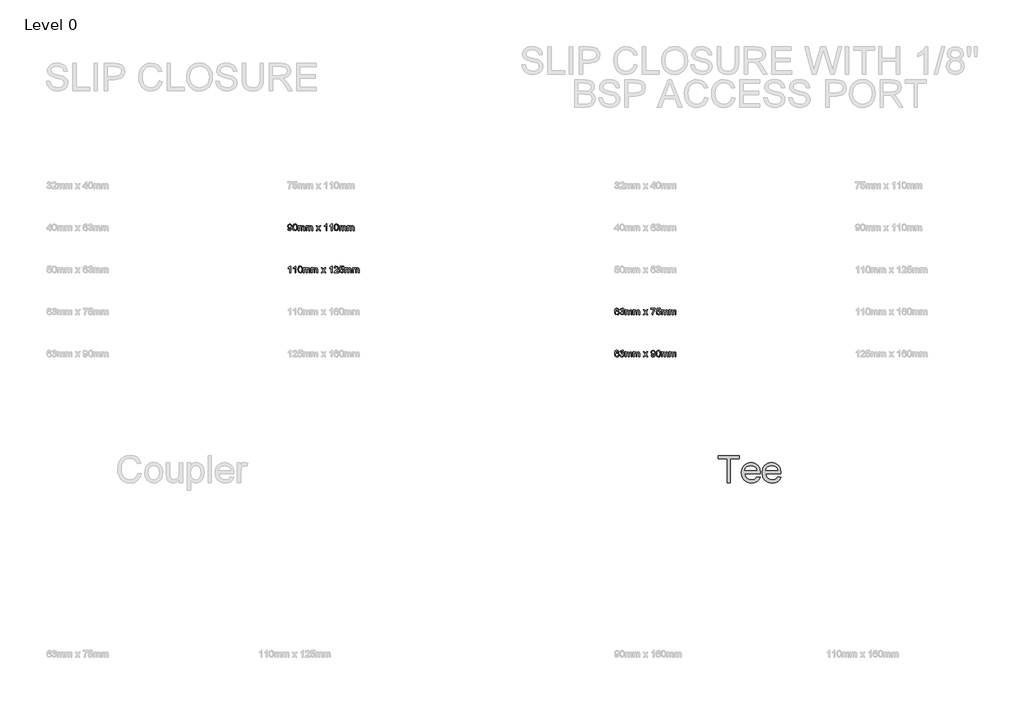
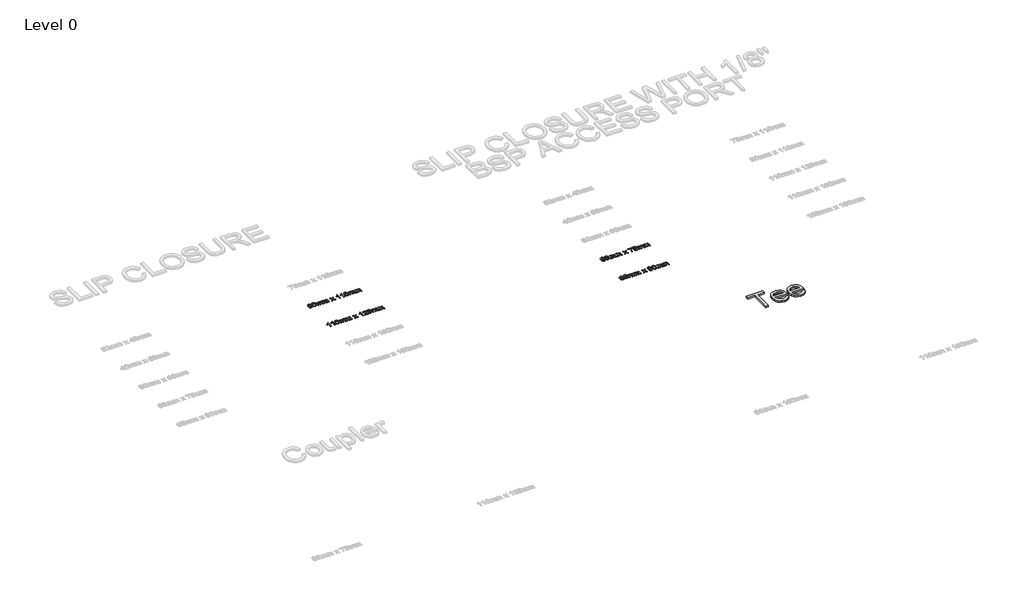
# One storey, part 12 of 21: 5 proxies.
"""IFC4 building model written with IfcOpenShell, lengths in millimetres."""

from ifc_helpers import new_model, si_unit, origin, origin_with_axes, place, context, project, spatial, polyline, outline, extrude, element, save

model = new_model("IFC4")

# Units and contexts
model_context = context("Model", 3, world=origin())
ifc_project = project(units=[si_unit("LENGTHUNIT", "METRE", prefix="MILLI")], contexts=[model_context])

# Site, building, storey
site = spatial("IfcSite", under=ifc_project)
building = spatial("IfcBuilding", under=site)
storey = spatial("IfcBuildingStorey", under=building, Name="Level 0", Elevation=0.0)

# Proxies
placement = place(None, origin())
element("IfcBuildingElementProxy", 1, Name="200mm Arial", ObjectType="200mm Arial", at=placement, inside=storey, context=model_context, shape_type="SweptSolid", body=[
    extrude(outline(polyline([(-2407.7485922, -7353.2112631), (-2407.7485922, -7177.4127203), (-2473.6730457, -7177.4127203), (-2473.6730457, -7152.2986428), (-2316.7100611, -7152.2986428), (-2316.7100611, -7177.4127203), (-2382.6345147, -7177.4127203), (-2382.6345147, -7353.2112631), (-2407.7485922, -7353.2112631)])), origin_with_axes(), (0.0, 0.0, 1.0), 15.0),
    extrude(outline(polyline([(-2188.2947194, -7309.2616274), (-2163.6711511, -7312.4008871), (-2172.5432386, -7330.9544024), (-2186.700564, -7344.8235536), (-2205.8242964, -7353.4687805), (-2229.5956047, -7356.3505228), (-2259.0629525, -7351.3779845), (-2281.7367461, -7336.4603696), (-2296.1945085, -7312.566434), (-2301.0137627, -7280.6649336), (-2296.1454576, -7247.6904441), (-2281.5405424, -7223.0300877), (-2259.1733171, -7207.6526203), (-2231.0180817, -7202.5267979), (-2203.7396318, -7207.6403576), (-2181.9426236, -7222.9810368), (-2167.6504081, -7247.5923423), (-2162.8863362, -7280.5177808), (-2163.033489, -7287.2868096), (-2275.8996851, -7287.2868096), (-2271.5525462, -7306.0855795), (-2261.4541855, -7319.9056798), (-2246.8799271, -7328.4037539), (-2229.1050954, -7331.2364452), (-2204.4815271, -7325.9879954), (-2195.3335282, -7319.1821785), (-2188.2947194, -7309.2616274)]), holes=[polyline([(-2275.8996851, -7262.172732), (-2188.0004138, -7262.172732), (-2191.3971908, -7248.9044547), (-2198.055855, -7239.4130992), (-2212.6975584, -7230.5839314), (-2231.1161836, -7227.6408754), (-2248.0448867, -7229.9891888), (-2262.0427967, -7237.034129), (-2271.7732754, -7248.0154066), (-2275.8996851, -7262.172732)])]), origin_with_axes(), (0.0, 0.0, 1.0), 15.0),
    extrude(outline(polyline([(-2034.4709944, -7309.2616274), (-2009.8474262, -7312.4008871), (-2018.7195137, -7330.9544024), (-2032.8768391, -7344.8235536), (-2052.0005715, -7353.4687805), (-2075.7718798, -7356.3505228), (-2105.2392276, -7351.3779845), (-2127.9130212, -7336.4603696), (-2142.3707836, -7312.566434), (-2147.1900378, -7280.6649336), (-2142.3217327, -7247.6904441), (-2127.7168175, -7223.0300877), (-2105.3495922, -7207.6526203), (-2077.1943568, -7202.5267979), (-2049.9159069, -7207.6403576), (-2028.1188987, -7222.9810368), (-2013.8266831, -7247.5923423), (-2009.0626113, -7280.5177808), (-2009.2097641, -7287.2868096), (-2122.0759602, -7287.2868096), (-2117.7288213, -7306.0855795), (-2107.6304605, -7319.9056798), (-2093.0562022, -7328.4037539), (-2075.2813704, -7331.2364452), (-2050.6578022, -7325.9879954), (-2041.5098033, -7319.1821785), (-2034.4709944, -7309.2616274)]), holes=[polyline([(-2122.0759602, -7262.172732), (-2034.1766888, -7262.172732), (-2037.5734659, -7248.9044547), (-2044.23213, -7239.4130992), (-2058.8738335, -7230.5839314), (-2077.2924587, -7227.6408754), (-2094.2211618, -7229.9891888), (-2108.2190717, -7237.034129), (-2117.9495505, -7248.0154066), (-2122.0759602, -7262.172732)])]), origin_with_axes(), (0.0, 0.0, 1.0), 15.0),
])
element("IfcBuildingElementProxy", 2, Name="50mm", ObjectType="50mm", at=placement, inside=storey, context=model_context, shape_type="SweptSolid", body=[
    extrude(outline(polyline([(-5657.4437539, -5476.9042243), (-5651.1652345, -5476.1194094), (-5648.3448059, -5482.1097546), (-5642.9982542, -5483.9675586), (-5637.9153513, -5482.7719421), (-5634.4695233, -5479.5775002), (-5632.4155155, -5474.1205839), (-5631.5080732, -5466.8365204), (-5636.5664507, -5470.3681875), (-5643.4519754, -5472.1953348), (-5653.9427436, -5467.7316999), (-5658.2285688, -5455.9717388), (-5653.7342771, -5443.831633), (-5642.4709567, -5439.233108), (-5633.5252929, -5441.8573329), (-5627.3694008, -5449.3376001), (-5625.2663421, -5463.3906924), (-5627.3632694, -5478.6394011), (-5633.5988693, -5487.2784966), (-5643.2925598, -5490.246078), (-5652.9433308, -5486.7450677), (-5657.4437539, -5476.9042243)]), holes=[polyline([(-5631.5448614, -5455.824586), (-5634.2549255, -5448.2952678), (-5641.4531499, -5445.5116274), (-5649.0069935, -5448.5098657), (-5651.9500494, -5456.2783071), (-5649.166409, -5463.2374082), (-5641.6248281, -5465.9168154), (-5634.3836842, -5463.2374082), (-5631.5448614, -5455.824586)])]), origin_with_axes(), (0.0, 0.0, 1.0), 5.0),
    extrude(outline(polyline([(-5619.7726376, -5464.7518557), (-5617.9270963, -5450.3002247), (-5612.4456545, -5441.9676975), (-5603.2915242, -5439.233108), (-5595.9584098, -5440.8517888), (-5590.893901, -5445.5177588), (-5587.950845, -5452.9489751), (-5586.8104108, -5464.7518557), (-5588.6375581, -5479.1421731), (-5594.1006057, -5487.4930944), (-5603.2915242, -5490.246078), (-5614.7694425, -5485.4636121), (-5618.5218388, -5476.9686037), (-5619.7726376, -5464.7518557)]), holes=[polyline([(-5613.4941182, -5464.739593), (-5610.5510623, -5480.3316582), (-5603.2915242, -5483.9675586), (-5596.0319862, -5480.3193955), (-5593.0889302, -5464.739593), (-5595.9338843, -5449.3253374), (-5603.3651006, -5445.5116274), (-5610.4529604, -5448.8716163), (-5613.4941182, -5464.739593)])]), origin_with_axes(), (0.0, 0.0, 1.0), 5.0),
    extrude(outline(polyline([(-5579.7470765, -5489.4612631), (-5579.7470765, -5452.5749617), (-5573.4685571, -5452.5749617), (-5573.4685571, -5458.6450146), (-5569.1520751, -5453.6724763), (-5563.0084457, -5451.7901468), (-5556.7176636, -5453.7092645), (-5553.2595729, -5459.086473), (-5548.360611, -5453.6142283), (-5542.1740621, -5451.7901468), (-5533.9641622, -5454.8251732), (-5531.0885513, -5464.1755073), (-5531.0885513, -5489.4612631), (-5537.3670707, -5489.4612631), (-5537.3670707, -5466.8733086), (-5537.9495505, -5461.6309902), (-5540.0587406, -5459.0496848), (-5543.6455901, -5458.0686662), (-5549.8198762, -5460.5825265), (-5552.2785542, -5468.6391422), (-5552.2785542, -5489.4612631), (-5558.5570736, -5489.4612631), (-5558.5570736, -5466.1743328), (-5560.0102075, -5460.0920171), (-5564.7742793, -5458.0686662), (-5569.4218552, -5459.4175668), (-5572.512064, -5463.3661669), (-5573.4685571, -5470.8586969), (-5573.4685571, -5489.4612631), (-5579.7470765, -5489.4612631)])), origin_with_axes(), (0.0, 0.0, 1.0), 5.0),
    extrude(outline(polyline([(-5521.6707722, -5489.4612631), (-5521.6707722, -5452.5749617), (-5515.3922528, -5452.5749617), (-5515.3922528, -5458.6450146), (-5511.0757708, -5453.6724763), (-5504.9321414, -5451.7901468), (-5498.6413593, -5453.7092645), (-5495.1832686, -5459.086473), (-5490.2843067, -5453.6142283), (-5484.0977578, -5451.7901468), (-5475.8878579, -5454.8251732), (-5473.012247, -5464.1755073), (-5473.012247, -5489.4612631), (-5479.2907664, -5489.4612631), (-5479.2907664, -5466.8733086), (-5479.8732462, -5461.6309902), (-5481.9824363, -5459.0496848), (-5485.5692858, -5458.0686662), (-5491.7435719, -5460.5825265), (-5494.2022499, -5468.6391422), (-5494.2022499, -5489.4612631), (-5500.4807693, -5489.4612631), (-5500.4807693, -5466.1743328), (-5501.9339032, -5460.0920171), (-5506.697975, -5458.0686662), (-5511.3455509, -5459.4175668), (-5514.4357597, -5463.3661669), (-5515.3922528, -5470.8586969), (-5515.3922528, -5489.4612631), (-5521.6707722, -5489.4612631)])), origin_with_axes(), (0.0, 0.0, 1.0), 5.0),
    extrude(outline(polyline([(-5447.8981695, -5489.4612631), (-5434.4827394, -5470.9200105), (-5447.1133545, -5452.5749617), (-5439.5595109, -5452.5749617), (-5433.4649325, -5461.4041296), (-5430.6199784, -5465.5734589), (-5428.155169, -5462.164419), (-5421.2144621, -5452.5749617), (-5413.6606184, -5452.5749617), (-5426.9288957, -5470.9200105), (-5414.1511278, -5489.4612631), (-5421.7049714, -5489.4612631), (-5429.3937051, -5478.3144386), (-5430.8039194, -5476.2788249), (-5440.3443258, -5489.4612631), (-5447.8981695, -5489.4612631)])), origin_with_axes(), (0.0, 0.0, 1.0), 5.0),
    extrude(outline(polyline([(-5367.0622324, -5489.4612631), (-5373.3407518, -5489.4612631), (-5373.3407518, -5450.3186188), (-5379.2881774, -5454.5553931), (-5385.8977905, -5457.7253096), (-5385.8977905, -5451.7901468), (-5376.6946093, -5445.9162976), (-5371.1089343, -5439.233108), (-5367.0622324, -5439.233108), (-5367.0622324, -5489.4612631)])), origin_with_axes(), (0.0, 0.0, 1.0), 5.0),
    extrude(outline(polyline([(-5328.6063012, -5489.4612631), (-5334.8848205, -5489.4612631), (-5334.8848205, -5450.3186188), (-5340.8322461, -5454.5553931), (-5347.4418593, -5457.7253096), (-5347.4418593, -5451.7901468), (-5338.2386781, -5445.9162976), (-5332.6530031, -5439.233108), (-5328.6063012, -5439.233108), (-5328.6063012, -5489.4612631)])), origin_with_axes(), (0.0, 0.0, 1.0), 5.0),
    extrude(outline(polyline([(-5313.6948176, -5464.7518557), (-5311.8492763, -5450.3002247), (-5306.3678345, -5441.9676975), (-5297.2137042, -5439.233108), (-5289.8805898, -5440.8517888), (-5284.816081, -5445.5177588), (-5281.873025, -5452.9489751), (-5280.7325908, -5464.7518557), (-5282.5597381, -5479.1421731), (-5288.0227857, -5487.4930944), (-5297.2137042, -5490.246078), (-5308.6916225, -5485.4636121), (-5312.4440188, -5476.9686037), (-5313.6948176, -5464.7518557)]), holes=[polyline([(-5307.4162982, -5464.739593), (-5304.4732423, -5480.3316582), (-5297.2137042, -5483.9675586), (-5289.9541662, -5480.3193955), (-5287.0111102, -5464.739593), (-5289.8560643, -5449.3253374), (-5297.2872806, -5445.5116274), (-5304.3751404, -5448.8716163), (-5307.4162982, -5464.739593)])]), origin_with_axes(), (0.0, 0.0, 1.0), 5.0),
    extrude(outline(polyline([(-5273.6692565, -5489.4612631), (-5273.6692565, -5452.5749617), (-5267.3907372, -5452.5749617), (-5267.3907372, -5458.6450146), (-5263.0742551, -5453.6724763), (-5256.9306258, -5451.7901468), (-5250.6398436, -5453.7092645), (-5247.1817529, -5459.086473), (-5242.282791, -5453.6142283), (-5236.0962421, -5451.7901468), (-5227.8863422, -5454.8251732), (-5225.0107313, -5464.1755073), (-5225.0107313, -5489.4612631), (-5231.2892507, -5489.4612631), (-5231.2892507, -5466.8733086), (-5231.8717305, -5461.6309902), (-5233.9809206, -5459.0496848), (-5237.5677701, -5458.0686662), (-5243.7420562, -5460.5825265), (-5246.2007342, -5468.6391422), (-5246.2007342, -5489.4612631), (-5252.4792536, -5489.4612631), (-5252.4792536, -5466.1743328), (-5253.9323875, -5460.0920171), (-5258.6964593, -5458.0686662), (-5263.3440352, -5459.4175668), (-5266.434244, -5463.3661669), (-5267.3907372, -5470.8586969), (-5267.3907372, -5489.4612631), (-5273.6692565, -5489.4612631)])), origin_with_axes(), (0.0, 0.0, 1.0), 5.0),
    extrude(outline(polyline([(-5215.5929522, -5489.4612631), (-5215.5929522, -5452.5749617), (-5209.3144329, -5452.5749617), (-5209.3144329, -5458.6450146), (-5204.9979508, -5453.6724763), (-5198.8543215, -5451.7901468), (-5192.5635393, -5453.7092645), (-5189.1054486, -5459.086473), (-5184.2064867, -5453.6142283), (-5178.0199378, -5451.7901468), (-5169.8100379, -5454.8251732), (-5166.934427, -5464.1755073), (-5166.934427, -5489.4612631), (-5173.2129464, -5489.4612631), (-5173.2129464, -5466.8733086), (-5173.7954262, -5461.6309902), (-5175.9046163, -5459.0496848), (-5179.4914658, -5458.0686662), (-5185.6657519, -5460.5825265), (-5188.1244299, -5468.6391422), (-5188.1244299, -5489.4612631), (-5194.4029493, -5489.4612631), (-5194.4029493, -5466.1743328), (-5195.8560832, -5460.0920171), (-5200.620155, -5458.0686662), (-5205.2677309, -5459.4175668), (-5208.3579397, -5463.3661669), (-5209.3144329, -5470.8586969), (-5209.3144329, -5489.4612631), (-5215.5929522, -5489.4612631)])), origin_with_axes(), (0.0, 0.0, 1.0), 5.0),
])
element("IfcBuildingElementProxy", 3, Name="50mm", ObjectType="50mm", at=placement, inside=storey, context=model_context, shape_type="SweptSolid", body=[
    extrude(outline(polyline([(-5634.6841211, -5800.7112631), (-5640.9626405, -5800.7112631), (-5640.9626405, -5761.5686188), (-5646.9100661, -5765.8053931), (-5653.5196793, -5768.9753096), (-5653.5196793, -5763.0401468), (-5644.316498, -5757.1662976), (-5638.7308231, -5750.483108), (-5634.6841211, -5750.483108), (-5634.6841211, -5800.7112631)])), origin_with_axes(), (0.0, 0.0, 1.0), 5.0),
    extrude(outline(polyline([(-5596.2281899, -5800.7112631), (-5602.5067093, -5800.7112631), (-5602.5067093, -5761.5686188), (-5608.4541349, -5765.8053931), (-5615.0637481, -5768.9753096), (-5615.0637481, -5763.0401468), (-5605.8605668, -5757.1662976), (-5600.2748919, -5750.483108), (-5596.2281899, -5750.483108), (-5596.2281899, -5800.7112631)])), origin_with_axes(), (0.0, 0.0, 1.0), 5.0),
    extrude(outline(polyline([(-5581.3167064, -5776.0018557), (-5579.471165, -5761.5502247), (-5573.9897233, -5753.2176975), (-5564.835593, -5750.483108), (-5557.5024786, -5752.1017888), (-5552.4379698, -5756.7677588), (-5549.4949138, -5764.1989751), (-5548.3544796, -5776.0018557), (-5550.1816268, -5790.3921731), (-5555.6446745, -5798.7430944), (-5564.835593, -5801.496078), (-5576.3135112, -5796.7136121), (-5580.0659076, -5788.2186037), (-5581.3167064, -5776.0018557)]), holes=[polyline([(-5575.038187, -5775.989593), (-5572.095131, -5791.5816582), (-5564.835593, -5795.2175586), (-5557.576055, -5791.5693955), (-5554.632999, -5775.989593), (-5557.4779531, -5760.5753374), (-5564.9091694, -5756.7616274), (-5571.9970292, -5760.1216163), (-5575.038187, -5775.989593)])]), origin_with_axes(), (0.0, 0.0, 1.0), 5.0),
    extrude(outline(polyline([(-5541.2911453, -5800.7112631), (-5541.2911453, -5763.8249617), (-5535.0126259, -5763.8249617), (-5535.0126259, -5769.8950146), (-5530.6961438, -5764.9224763), (-5524.5525145, -5763.0401468), (-5518.2617324, -5764.9592645), (-5514.8036416, -5770.336473), (-5509.9046797, -5764.8642283), (-5503.7181309, -5763.0401468), (-5495.508231, -5766.0751732), (-5492.6326201, -5775.4255073), (-5492.6326201, -5800.7112631), (-5498.9111395, -5800.7112631), (-5498.9111395, -5778.1233086), (-5499.4936193, -5772.8809902), (-5501.6028094, -5770.2996848), (-5505.1896588, -5769.3186662), (-5511.363945, -5771.8325265), (-5513.822623, -5779.8891422), (-5513.822623, -5800.7112631), (-5520.1011424, -5800.7112631), (-5520.1011424, -5777.4243328), (-5521.5542763, -5771.3420171), (-5526.3183481, -5769.3186662), (-5530.965924, -5770.6675668), (-5534.0561327, -5774.6161669), (-5535.0126259, -5782.1086969), (-5535.0126259, -5800.7112631), (-5541.2911453, -5800.7112631)])), origin_with_axes(), (0.0, 0.0, 1.0), 5.0),
    extrude(outline(polyline([(-5483.214841, -5800.7112631), (-5483.214841, -5763.8249617), (-5476.9363216, -5763.8249617), (-5476.9363216, -5769.8950146), (-5472.6198395, -5764.9224763), (-5466.4762102, -5763.0401468), (-5460.1854281, -5764.9592645), (-5456.7273373, -5770.336473), (-5451.8283754, -5764.8642283), (-5445.6418266, -5763.0401468), (-5437.4319267, -5766.0751732), (-5434.5563158, -5775.4255073), (-5434.5563158, -5800.7112631), (-5440.8348351, -5800.7112631), (-5440.8348351, -5778.1233086), (-5441.417315, -5772.8809902), (-5443.5265051, -5770.2996848), (-5447.1133545, -5769.3186662), (-5453.2876407, -5771.8325265), (-5455.7463187, -5779.8891422), (-5455.7463187, -5800.7112631), (-5462.0248381, -5800.7112631), (-5462.0248381, -5777.4243328), (-5463.477972, -5771.3420171), (-5468.2420438, -5769.3186662), (-5472.8896197, -5770.6675668), (-5475.9798284, -5774.6161669), (-5476.9363216, -5782.1086969), (-5476.9363216, -5800.7112631), (-5483.214841, -5800.7112631)])), origin_with_axes(), (0.0, 0.0, 1.0), 5.0),
    extrude(outline(polyline([(-5409.4422382, -5800.7112631), (-5396.0268081, -5782.1700105), (-5408.6574233, -5763.8249617), (-5401.1035797, -5763.8249617), (-5395.0090013, -5772.6541296), (-5392.1640472, -5776.8234589), (-5389.6992378, -5773.414419), (-5382.7585308, -5763.8249617), (-5375.2046872, -5763.8249617), (-5388.4729645, -5782.1700105), (-5375.6951965, -5800.7112631), (-5383.2490402, -5800.7112631), (-5390.9377739, -5789.5644386), (-5392.3479882, -5787.5288249), (-5401.8883946, -5800.7112631), (-5409.4422382, -5800.7112631)])), origin_with_axes(), (0.0, 0.0, 1.0), 5.0),
    extrude(outline(polyline([(-5328.6063012, -5800.7112631), (-5334.8848205, -5800.7112631), (-5334.8848205, -5761.5686188), (-5340.8322461, -5765.8053931), (-5347.4418593, -5768.9753096), (-5347.4418593, -5763.0401468), (-5338.2386781, -5757.1662976), (-5332.6530031, -5750.483108), (-5328.6063012, -5750.483108), (-5328.6063012, -5800.7112631)])), origin_with_axes(), (0.0, 0.0, 1.0), 5.0),
    extrude(outline(polyline([(-5281.5174058, -5794.4327437), (-5281.5174058, -5800.7112631), (-5314.4796325, -5800.7112631), (-5313.8051822, -5796.3825183), (-5309.9914722, -5789.7177228), (-5302.1310602, -5782.4397907), (-5291.2908041, -5771.9796793), (-5288.5807401, -5764.867294), (-5291.1375199, -5759.1099408), (-5297.8145782, -5756.7616274), (-5304.7736792, -5759.0547585), (-5307.4162982, -5765.3945916), (-5313.6948176, -5764.6097766), (-5308.8816948, -5754.1006143), (-5297.6796881, -5750.483108), (-5286.4408931, -5754.5052845), (-5282.3022207, -5764.4871493), (-5283.4181294, -5770.4407063), (-5287.1276062, -5776.5965983), (-5296.122321, -5785.1989056), (-5303.3450708, -5791.2383017), (-5306.1777622, -5794.4327437), (-5281.5174058, -5794.4327437)])), origin_with_axes(), (0.0, 0.0, 1.0), 5.0),
    extrude(outline(polyline([(-5275.2388864, -5787.3694094), (-5268.960367, -5786.5845945), (-5265.7965818, -5793.0531862), (-5259.2360196, -5795.2175586), (-5251.3633449, -5792.2070576), (-5248.555179, -5784.217887), (-5251.1855353, -5776.7621452), (-5259.1379177, -5774.0275557), (-5264.6500163, -5775.118939), (-5268.1755521, -5777.9516303), (-5274.4540715, -5777.1668154), (-5268.960367, -5751.2679229), (-5244.6311044, -5751.2679229), (-5244.6311044, -5757.5464423), (-5263.8835955, -5757.5464423), (-5266.569134, -5771.3788053), (-5257.3843469, -5767.7490363), (-5246.648324, -5772.2494594), (-5242.2766596, -5783.8254795), (-5246.212997, -5795.475076), (-5251.866117, -5799.9908275), (-5259.2605451, -5801.496078), (-5270.3399245, -5797.6271857), (-5275.2388864, -5787.3694094)])), origin_with_axes(), (0.0, 0.0, 1.0), 5.0),
    extrude(outline(polyline([(-5235.2133253, -5800.7112631), (-5235.2133253, -5763.8249617), (-5228.9348059, -5763.8249617), (-5228.9348059, -5769.8950146), (-5224.6183239, -5764.9224763), (-5218.4746945, -5763.0401468), (-5212.1839124, -5764.9592645), (-5208.7258217, -5770.336473), (-5203.8268598, -5764.8642283), (-5197.6403109, -5763.0401468), (-5189.430411, -5766.0751732), (-5186.5548001, -5775.4255073), (-5186.5548001, -5800.7112631), (-5192.8333195, -5800.7112631), (-5192.8333195, -5778.1233086), (-5193.4157993, -5772.8809902), (-5195.5249894, -5770.2996848), (-5199.1118389, -5769.3186662), (-5205.286125, -5771.8325265), (-5207.744803, -5779.8891422), (-5207.744803, -5800.7112631), (-5214.0233224, -5800.7112631), (-5214.0233224, -5777.4243328), (-5215.4764563, -5771.3420171), (-5220.2405281, -5769.3186662), (-5224.888104, -5770.6675668), (-5227.9783127, -5774.6161669), (-5228.9348059, -5782.1086969), (-5228.9348059, -5800.7112631), (-5235.2133253, -5800.7112631)])), origin_with_axes(), (0.0, 0.0, 1.0), 5.0),
    extrude(outline(polyline([(-5177.137021, -5800.7112631), (-5177.137021, -5763.8249617), (-5170.8585016, -5763.8249617), (-5170.8585016, -5769.8950146), (-5166.5420195, -5764.9224763), (-5160.3983902, -5763.0401468), (-5154.1076081, -5764.9592645), (-5150.6495174, -5770.336473), (-5145.7505555, -5764.8642283), (-5139.5640066, -5763.0401468), (-5131.3541067, -5766.0751732), (-5128.4784958, -5775.4255073), (-5128.4784958, -5800.7112631), (-5134.7570152, -5800.7112631), (-5134.7570152, -5778.1233086), (-5135.339495, -5772.8809902), (-5137.4486851, -5770.2996848), (-5141.0355345, -5769.3186662), (-5147.2098207, -5771.8325265), (-5149.6684987, -5779.8891422), (-5149.6684987, -5800.7112631), (-5155.9470181, -5800.7112631), (-5155.9470181, -5777.4243328), (-5157.400152, -5771.3420171), (-5162.1642238, -5769.3186662), (-5166.8117997, -5770.6675668), (-5169.9020084, -5774.6161669), (-5170.8585016, -5782.1086969), (-5170.8585016, -5800.7112631), (-5177.137021, -5800.7112631)])), origin_with_axes(), (0.0, 0.0, 1.0), 5.0),
])
element("IfcBuildingElementProxy", 4, Name="50mm", ObjectType="50mm", at=placement, inside=storey, context=model_context, shape_type="SweptSolid", body=[
    extrude(outline(polyline([(-3206.051157, -6075.0749617), (-3212.3296764, -6075.8597766), (-3214.7086466, -6070.6235896), (-3220.9994287, -6068.0116274), (-3226.6648115, -6069.5322063), (-3230.9506367, -6075.2405086), (-3232.7348644, -6086.4302526), (-3227.1982403, -6081.4209261), (-3220.3372411, -6079.7838512), (-3209.6686633, -6084.2597489), (-3205.2663421, -6095.8235062), (-3207.338744, -6104.4871272), (-3213.0409149, -6110.6184938), (-3221.2692089, -6112.746078), (-3234.0653709, -6107.1052208), (-3237.7763805, -6099.6372163), (-3239.0133838, -6088.5149173), (-3237.6399576, -6076.0099951), (-3233.5196793, -6067.4598044), (-3227.8941505, -6063.1647821), (-3220.6070213, -6061.733108), (-3210.6864701, -6065.2770379), (-3206.051157, -6075.0749617)]), holes=[polyline([(-3232.7348644, -6095.7254044), (-3231.2817305, -6101.1639265), (-3227.4189695, -6105.1125266), (-3221.7597182, -6106.4675586), (-3214.3591587, -6103.6593927), (-3211.5448614, -6096.0319727), (-3214.3223705, -6088.7295151), (-3222.0172356, -6086.0623706), (-3229.6139988, -6088.7295151), (-3232.7348644, -6095.7254044)])]), origin_with_axes(), (0.0, 0.0, 1.0), 5.0),
    extrude(outline(polyline([(-3199.7726376, -6098.6194094), (-3193.4941182, -6097.8345945), (-3190.0298961, -6104.4442077), (-3183.5490416, -6106.4675586), (-3175.9216216, -6103.6839182), (-3173.0889302, -6096.7922622), (-3175.8970961, -6090.2991449), (-3183.0340068, -6087.7301023), (-3187.436328, -6088.4168154), (-3186.7373522, -6082.138296), (-3178.6071601, -6080.4092506), (-3175.443375, -6074.8664952), (-3177.7365061, -6069.9552706), (-3183.6471435, -6068.0116274), (-3189.6313573, -6069.9736647), (-3192.7093033, -6075.8597766), (-3198.9878227, -6075.0749617), (-3193.8497375, -6065.227987), (-3183.8678727, -6061.733108), (-3176.2956349, -6063.456022), (-3170.9981342, -6068.1649116), (-3169.1648556, -6074.4986132), (-3170.9061637, -6080.2866233), (-3176.0565116, -6084.4436899), (-3169.2139065, -6088.7356465), (-3166.8104108, -6096.9026268), (-3171.6174022, -6108.1352903), (-3183.7697708, -6112.746078), (-3194.7817052, -6108.8097407), (-3199.7726376, -6098.6194094)])), origin_with_axes(), (0.0, 0.0, 1.0), 5.0),
    extrude(outline(polyline([(-3159.7470765, -6111.9612631), (-3159.7470765, -6075.0749617), (-3153.4685571, -6075.0749617), (-3153.4685571, -6081.1450146), (-3149.1520751, -6076.1724763), (-3143.0084457, -6074.2901468), (-3136.7176636, -6076.2092645), (-3133.2595729, -6081.586473), (-3128.360611, -6076.1142283), (-3122.1740621, -6074.2901468), (-3113.9641622, -6077.3251732), (-3111.0885513, -6086.6755073), (-3111.0885513, -6111.9612631), (-3117.3670707, -6111.9612631), (-3117.3670707, -6089.3733086), (-3117.9495505, -6084.1309902), (-3120.0587406, -6081.5496848), (-3123.6455901, -6080.5686662), (-3129.8198762, -6083.0825265), (-3132.2785542, -6091.1391422), (-3132.2785542, -6111.9612631), (-3138.5570736, -6111.9612631), (-3138.5570736, -6088.6743328), (-3140.0102075, -6082.5920171), (-3144.7742793, -6080.5686662), (-3149.4218552, -6081.9175668), (-3152.512064, -6085.8661669), (-3153.4685571, -6093.3586969), (-3153.4685571, -6111.9612631), (-3159.7470765, -6111.9612631)])), origin_with_axes(), (0.0, 0.0, 1.0), 5.0),
    extrude(outline(polyline([(-3101.6707722, -6111.9612631), (-3101.6707722, -6075.0749617), (-3095.3922528, -6075.0749617), (-3095.3922528, -6081.1450146), (-3091.0757708, -6076.1724763), (-3084.9321414, -6074.2901468), (-3078.6413593, -6076.2092645), (-3075.1832686, -6081.586473), (-3070.2843067, -6076.1142283), (-3064.0977578, -6074.2901468), (-3055.8878579, -6077.3251732), (-3053.012247, -6086.6755073), (-3053.012247, -6111.9612631), (-3059.2907664, -6111.9612631), (-3059.2907664, -6089.3733086), (-3059.8732462, -6084.1309902), (-3061.9824363, -6081.5496848), (-3065.5692858, -6080.5686662), (-3071.7435719, -6083.0825265), (-3074.2022499, -6091.1391422), (-3074.2022499, -6111.9612631), (-3080.4807693, -6111.9612631), (-3080.4807693, -6088.6743328), (-3081.9339032, -6082.5920171), (-3086.697975, -6080.5686662), (-3091.3455509, -6081.9175668), (-3094.4357597, -6085.8661669), (-3095.3922528, -6093.3586969), (-3095.3922528, -6111.9612631), (-3101.6707722, -6111.9612631)])), origin_with_axes(), (0.0, 0.0, 1.0), 5.0),
    extrude(outline(polyline([(-3027.8981695, -6111.9612631), (-3014.4827394, -6093.4200105), (-3027.1133545, -6075.0749617), (-3019.5595109, -6075.0749617), (-3013.4649325, -6083.9041296), (-3010.6199784, -6088.0734589), (-3008.155169, -6084.664419), (-3001.2144621, -6075.0749617), (-2993.6606184, -6075.0749617), (-3006.9288957, -6093.4200105), (-2994.1511278, -6111.9612631), (-3001.7049714, -6111.9612631), (-3009.3937051, -6100.8144386), (-3010.8039194, -6098.7788249), (-3020.3443258, -6111.9612631), (-3027.8981695, -6111.9612631)])), origin_with_axes(), (0.0, 0.0, 1.0), 5.0),
    extrude(outline(polyline([(-2970.6066801, -6068.7964423), (-2970.6066801, -6062.5179229), (-2937.6444533, -6062.5179229), (-2937.6444533, -6067.5946945), (-2946.9947874, -6081.1020951), (-2954.1500922, -6098.3128411), (-2956.4800115, -6111.9612631), (-2962.7585308, -6111.9612631), (-2960.2630646, -6097.7978063), (-2953.4143282, -6081.7888081), (-2943.9229727, -6068.7964423), (-2970.6066801, -6068.7964423)])), origin_with_axes(), (0.0, 0.0, 1.0), 5.0),
    extrude(outline(polyline([(-2932.1507488, -6098.6194094), (-2925.8722295, -6097.8345945), (-2922.7084443, -6104.3031862), (-2916.1478821, -6106.4675586), (-2908.2752074, -6103.4570576), (-2905.4670415, -6095.467887), (-2908.0973977, -6088.0121452), (-2916.0497802, -6085.2775557), (-2921.5618788, -6086.368939), (-2925.0874145, -6089.2016303), (-2931.3659339, -6088.4168154), (-2925.8722295, -6062.5179229), (-2901.5429668, -6062.5179229), (-2901.5429668, -6068.7964423), (-2920.7954579, -6068.7964423), (-2923.4809965, -6082.6288053), (-2914.2962093, -6078.9990363), (-2903.5601865, -6083.4994594), (-2899.1885221, -6095.0754795), (-2903.1248594, -6106.725076), (-2908.7779794, -6111.2408275), (-2916.1724075, -6112.746078), (-2927.2517869, -6108.8771857), (-2932.1507488, -6098.6194094)])), origin_with_axes(), (0.0, 0.0, 1.0), 5.0),
    extrude(outline(polyline([(-2892.1251878, -6111.9612631), (-2892.1251878, -6075.0749617), (-2885.8466684, -6075.0749617), (-2885.8466684, -6081.1450146), (-2881.5301863, -6076.1724763), (-2875.386557, -6074.2901468), (-2869.0957749, -6076.2092645), (-2865.6376841, -6081.586473), (-2860.7387222, -6076.1142283), (-2854.5521733, -6074.2901468), (-2846.3422735, -6077.3251732), (-2843.4666625, -6086.6755073), (-2843.4666625, -6111.9612631), (-2849.7451819, -6111.9612631), (-2849.7451819, -6089.3733086), (-2850.3276618, -6084.1309902), (-2852.4368519, -6081.5496848), (-2856.0237013, -6080.5686662), (-2862.1979875, -6083.0825265), (-2864.6566655, -6091.1391422), (-2864.6566655, -6111.9612631), (-2870.9351848, -6111.9612631), (-2870.9351848, -6088.6743328), (-2872.3883187, -6082.5920171), (-2877.1523906, -6080.5686662), (-2881.7999664, -6081.9175668), (-2884.8901752, -6085.8661669), (-2885.8466684, -6093.3586969), (-2885.8466684, -6111.9612631), (-2892.1251878, -6111.9612631)])), origin_with_axes(), (0.0, 0.0, 1.0), 5.0),
    extrude(outline(polyline([(-2834.0488835, -6111.9612631), (-2834.0488835, -6075.0749617), (-2827.7703641, -6075.0749617), (-2827.7703641, -6081.1450146), (-2823.453882, -6076.1724763), (-2817.3102527, -6074.2901468), (-2811.0194706, -6076.2092645), (-2807.5613798, -6081.586473), (-2802.6624179, -6076.1142283), (-2796.475869, -6074.2901468), (-2788.2659692, -6077.3251732), (-2785.3903582, -6086.6755073), (-2785.3903582, -6111.9612631), (-2791.6688776, -6111.9612631), (-2791.6688776, -6089.3733086), (-2792.2513574, -6084.1309902), (-2794.3605476, -6081.5496848), (-2797.947397, -6080.5686662), (-2804.1216832, -6083.0825265), (-2806.5803612, -6091.1391422), (-2806.5803612, -6111.9612631), (-2812.8588805, -6111.9612631), (-2812.8588805, -6088.6743328), (-2814.3120144, -6082.5920171), (-2819.0760863, -6080.5686662), (-2823.7236621, -6081.9175668), (-2826.8138709, -6085.8661669), (-2827.7703641, -6093.3586969), (-2827.7703641, -6111.9612631), (-2834.0488835, -6111.9612631)])), origin_with_axes(), (0.0, 0.0, 1.0), 5.0),
])
element("IfcBuildingElementProxy", 5, Name="50mm", ObjectType="50mm", at=placement, inside=storey, context=model_context, shape_type="SweptSolid", body=[
    extrude(outline(polyline([(-3206.051157, -6386.3249617), (-3212.3296764, -6387.1097766), (-3214.7086466, -6381.8735896), (-3220.9994287, -6379.2616274), (-3226.6648115, -6380.7822063), (-3230.9506367, -6386.4905086), (-3232.7348644, -6397.6802526), (-3227.1982403, -6392.6709261), (-3220.3372411, -6391.0338512), (-3209.6686633, -6395.5097489), (-3205.2663421, -6407.0735062), (-3207.338744, -6415.7371272), (-3213.0409149, -6421.8684938), (-3221.2692089, -6423.996078), (-3234.0653709, -6418.3552208), (-3237.7763805, -6410.8872163), (-3239.0133838, -6399.7649173), (-3237.6399576, -6387.2599951), (-3233.5196793, -6378.7098044), (-3227.8941505, -6374.4147821), (-3220.6070213, -6372.983108), (-3210.6864701, -6376.5270379), (-3206.051157, -6386.3249617)]), holes=[polyline([(-3232.7348644, -6406.9754044), (-3231.2817305, -6412.4139265), (-3227.4189695, -6416.3625266), (-3221.7597182, -6417.7175586), (-3214.3591587, -6414.9093927), (-3211.5448614, -6407.2819727), (-3214.3223705, -6399.9795151), (-3222.0172356, -6397.3123706), (-3229.6139988, -6399.9795151), (-3232.7348644, -6406.9754044)])]), origin_with_axes(), (0.0, 0.0, 1.0), 5.0),
    extrude(outline(polyline([(-3199.7726376, -6409.8694094), (-3193.4941182, -6409.0845945), (-3190.0298961, -6415.6942077), (-3183.5490416, -6417.7175586), (-3175.9216216, -6414.9339182), (-3173.0889302, -6408.0422622), (-3175.8970961, -6401.5491449), (-3183.0340068, -6398.9801023), (-3187.436328, -6399.6668154), (-3186.7373522, -6393.388296), (-3178.6071601, -6391.6592506), (-3175.443375, -6386.1164952), (-3177.7365061, -6381.2052706), (-3183.6471435, -6379.2616274), (-3189.6313573, -6381.2236647), (-3192.7093033, -6387.1097766), (-3198.9878227, -6386.3249617), (-3193.8497375, -6376.477987), (-3183.8678727, -6372.983108), (-3176.2956349, -6374.706022), (-3170.9981342, -6379.4149116), (-3169.1648556, -6385.7486132), (-3170.9061637, -6391.5366233), (-3176.0565116, -6395.6936899), (-3169.2139065, -6399.9856465), (-3166.8104108, -6408.1526268), (-3171.6174022, -6419.3852903), (-3183.7697708, -6423.996078), (-3194.7817052, -6420.0597407), (-3199.7726376, -6409.8694094)])), origin_with_axes(), (0.0, 0.0, 1.0), 5.0),
    extrude(outline(polyline([(-3159.7470765, -6423.2112631), (-3159.7470765, -6386.3249617), (-3153.4685571, -6386.3249617), (-3153.4685571, -6392.3950146), (-3149.1520751, -6387.4224763), (-3143.0084457, -6385.5401468), (-3136.7176636, -6387.4592645), (-3133.2595729, -6392.836473), (-3128.360611, -6387.3642283), (-3122.1740621, -6385.5401468), (-3113.9641622, -6388.5751732), (-3111.0885513, -6397.9255073), (-3111.0885513, -6423.2112631), (-3117.3670707, -6423.2112631), (-3117.3670707, -6400.6233086), (-3117.9495505, -6395.3809902), (-3120.0587406, -6392.7996848), (-3123.6455901, -6391.8186662), (-3129.8198762, -6394.3325265), (-3132.2785542, -6402.3891422), (-3132.2785542, -6423.2112631), (-3138.5570736, -6423.2112631), (-3138.5570736, -6399.9243328), (-3140.0102075, -6393.8420171), (-3144.7742793, -6391.8186662), (-3149.4218552, -6393.1675668), (-3152.512064, -6397.1161669), (-3153.4685571, -6404.6086969), (-3153.4685571, -6423.2112631), (-3159.7470765, -6423.2112631)])), origin_with_axes(), (0.0, 0.0, 1.0), 5.0),
    extrude(outline(polyline([(-3101.6707722, -6423.2112631), (-3101.6707722, -6386.3249617), (-3095.3922528, -6386.3249617), (-3095.3922528, -6392.3950146), (-3091.0757708, -6387.4224763), (-3084.9321414, -6385.5401468), (-3078.6413593, -6387.4592645), (-3075.1832686, -6392.836473), (-3070.2843067, -6387.3642283), (-3064.0977578, -6385.5401468), (-3055.8878579, -6388.5751732), (-3053.012247, -6397.9255073), (-3053.012247, -6423.2112631), (-3059.2907664, -6423.2112631), (-3059.2907664, -6400.6233086), (-3059.8732462, -6395.3809902), (-3061.9824363, -6392.7996848), (-3065.5692858, -6391.8186662), (-3071.7435719, -6394.3325265), (-3074.2022499, -6402.3891422), (-3074.2022499, -6423.2112631), (-3080.4807693, -6423.2112631), (-3080.4807693, -6399.9243328), (-3081.9339032, -6393.8420171), (-3086.697975, -6391.8186662), (-3091.3455509, -6393.1675668), (-3094.4357597, -6397.1161669), (-3095.3922528, -6404.6086969), (-3095.3922528, -6423.2112631), (-3101.6707722, -6423.2112631)])), origin_with_axes(), (0.0, 0.0, 1.0), 5.0),
    extrude(outline(polyline([(-3027.8981695, -6423.2112631), (-3014.4827394, -6404.6700105), (-3027.1133545, -6386.3249617), (-3019.5595109, -6386.3249617), (-3013.4649325, -6395.1541296), (-3010.6199784, -6399.3234589), (-3008.155169, -6395.914419), (-3001.2144621, -6386.3249617), (-2993.6606184, -6386.3249617), (-3006.9288957, -6404.6700105), (-2994.1511278, -6423.2112631), (-3001.7049714, -6423.2112631), (-3009.3937051, -6412.0644386), (-3010.8039194, -6410.0288249), (-3020.3443258, -6423.2112631), (-3027.8981695, -6423.2112631)])), origin_with_axes(), (0.0, 0.0, 1.0), 5.0),
    extrude(outline(polyline([(-2969.8218652, -6410.6542243), (-2963.5433458, -6409.8694094), (-2960.7229171, -6415.8597546), (-2955.3763655, -6417.7175586), (-2950.2934626, -6416.5219421), (-2946.8476346, -6413.3275002), (-2944.7936267, -6407.8705839), (-2943.8861845, -6400.5865204), (-2948.9445619, -6404.1181875), (-2955.8300866, -6405.9453348), (-2966.3208548, -6401.4816999), (-2970.6066801, -6389.7217388), (-2966.1123884, -6377.581633), (-2954.8490679, -6372.983108), (-2945.9034041, -6375.6073329), (-2939.747512, -6383.0876001), (-2937.6444533, -6397.1406924), (-2939.7413807, -6412.3894011), (-2945.9769805, -6421.0284966), (-2955.6706711, -6423.996078), (-2965.3214421, -6420.4950677), (-2969.8218652, -6410.6542243)]), holes=[polyline([(-2943.9229727, -6389.574586), (-2946.6330367, -6382.0452678), (-2953.8312611, -6379.2616274), (-2961.3851047, -6382.2598657), (-2964.3281607, -6390.0283071), (-2961.5445203, -6396.9874082), (-2954.0029394, -6399.6668154), (-2946.7617954, -6396.9874082), (-2943.9229727, -6389.574586)])]), origin_with_axes(), (0.0, 0.0, 1.0), 5.0),
    extrude(outline(polyline([(-2932.1507488, -6398.5018557), (-2930.3052075, -6384.0502247), (-2924.8237658, -6375.7176975), (-2915.6696355, -6372.983108), (-2908.336521, -6374.6017888), (-2903.2720122, -6379.2677588), (-2900.3289563, -6386.6989751), (-2899.1885221, -6398.5018557), (-2901.0156693, -6412.8921731), (-2906.4787169, -6421.2430944), (-2915.6696355, -6423.996078), (-2927.1475537, -6419.2136121), (-2930.8999501, -6410.7186037), (-2932.1507488, -6398.5018557)]), holes=[polyline([(-2925.8722295, -6398.489593), (-2922.9291735, -6414.0816582), (-2915.6696355, -6417.7175586), (-2908.4100974, -6414.0693955), (-2905.4670415, -6398.489593), (-2908.3119956, -6383.0753374), (-2915.7432119, -6379.2616274), (-2922.8310716, -6382.6216163), (-2925.8722295, -6398.489593)])]), origin_with_axes(), (0.0, 0.0, 1.0), 5.0),
    extrude(outline(polyline([(-2892.1251878, -6423.2112631), (-2892.1251878, -6386.3249617), (-2885.8466684, -6386.3249617), (-2885.8466684, -6392.3950146), (-2881.5301863, -6387.4224763), (-2875.386557, -6385.5401468), (-2869.0957749, -6387.4592645), (-2865.6376841, -6392.836473), (-2860.7387222, -6387.3642283), (-2854.5521733, -6385.5401468), (-2846.3422735, -6388.5751732), (-2843.4666625, -6397.9255073), (-2843.4666625, -6423.2112631), (-2849.7451819, -6423.2112631), (-2849.7451819, -6400.6233086), (-2850.3276618, -6395.3809902), (-2852.4368519, -6392.7996848), (-2856.0237013, -6391.8186662), (-2862.1979875, -6394.3325265), (-2864.6566655, -6402.3891422), (-2864.6566655, -6423.2112631), (-2870.9351848, -6423.2112631), (-2870.9351848, -6399.9243328), (-2872.3883187, -6393.8420171), (-2877.1523906, -6391.8186662), (-2881.7999664, -6393.1675668), (-2884.8901752, -6397.1161669), (-2885.8466684, -6404.6086969), (-2885.8466684, -6423.2112631), (-2892.1251878, -6423.2112631)])), origin_with_axes(), (0.0, 0.0, 1.0), 5.0),
    extrude(outline(polyline([(-2834.0488835, -6423.2112631), (-2834.0488835, -6386.3249617), (-2827.7703641, -6386.3249617), (-2827.7703641, -6392.3950146), (-2823.453882, -6387.4224763), (-2817.3102527, -6385.5401468), (-2811.0194706, -6387.4592645), (-2807.5613798, -6392.836473), (-2802.6624179, -6387.3642283), (-2796.475869, -6385.5401468), (-2788.2659692, -6388.5751732), (-2785.3903582, -6397.9255073), (-2785.3903582, -6423.2112631), (-2791.6688776, -6423.2112631), (-2791.6688776, -6400.6233086), (-2792.2513574, -6395.3809902), (-2794.3605476, -6392.7996848), (-2797.947397, -6391.8186662), (-2804.1216832, -6394.3325265), (-2806.5803612, -6402.3891422), (-2806.5803612, -6423.2112631), (-2812.8588805, -6423.2112631), (-2812.8588805, -6399.9243328), (-2814.3120144, -6393.8420171), (-2819.0760863, -6391.8186662), (-2823.7236621, -6393.1675668), (-2826.8138709, -6397.1161669), (-2827.7703641, -6404.6086969), (-2827.7703641, -6423.2112631), (-2834.0488835, -6423.2112631)])), origin_with_axes(), (0.0, 0.0, 1.0), 5.0),
])

save(model, "model.ifc")
